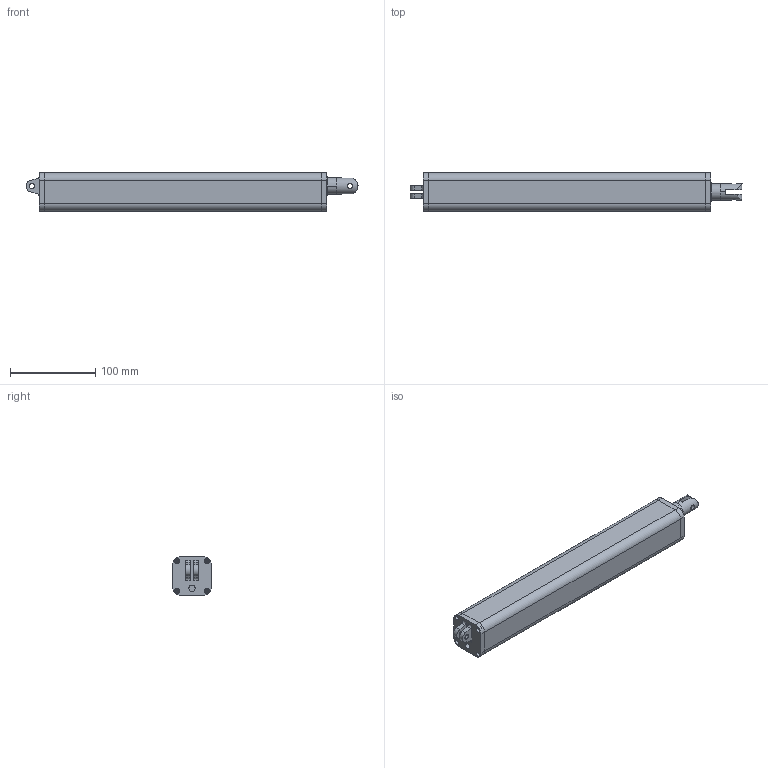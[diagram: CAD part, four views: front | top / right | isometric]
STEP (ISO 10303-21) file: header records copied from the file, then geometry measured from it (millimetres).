
FILE_DESCRIPTION((''),'2;1');
FILE_NAME('LAS4-S100_ASM','2007-07-11T',('amyliao'),(''),'PRO/ENGINEER BY PARAMETRIC TECHNOLOGY CORPORATION, 2003210','PRO/ENGINEER BY PARAMETRIC TECHNOLOGY CORPORATION, 2003210','');
FILE_SCHEMA(('CONFIG_CONTROL_DESIGN'));
Length unit declared in the file: millimetre
Products named in the file (7): OUT-TUBE; BACK-FIX; T1; T2; LAF-IN-TUBE; T3; LAS4-S100_ASM
Assembly tree (6 placements, depth 2):
  LAS4-S100_ASM
    OUT-TUBE
    BACK-FIX
    T1
    T2
    LAF-IN-TUBE
    T3
Bounding box: 388.85 x 45 x 45 mm (x, y, z)
Volume: 186372.5 mm3; surface area: 192502.2 mm2
Topology: 6 solids, 6 shells, 139 faces, 354 edges, 236 vertices
Faces by surface type: cylinder 83, plane 56
Entity records: 4641 total; most frequent: CARTESIAN_POINT 852, DIRECTION 814, ORIENTED_EDGE 708, EDGE_CURVE 354, AXIS2_PLACEMENT_3D 314, VERTEX_POINT 236, EDGE_LOOP 192, VECTOR 186
